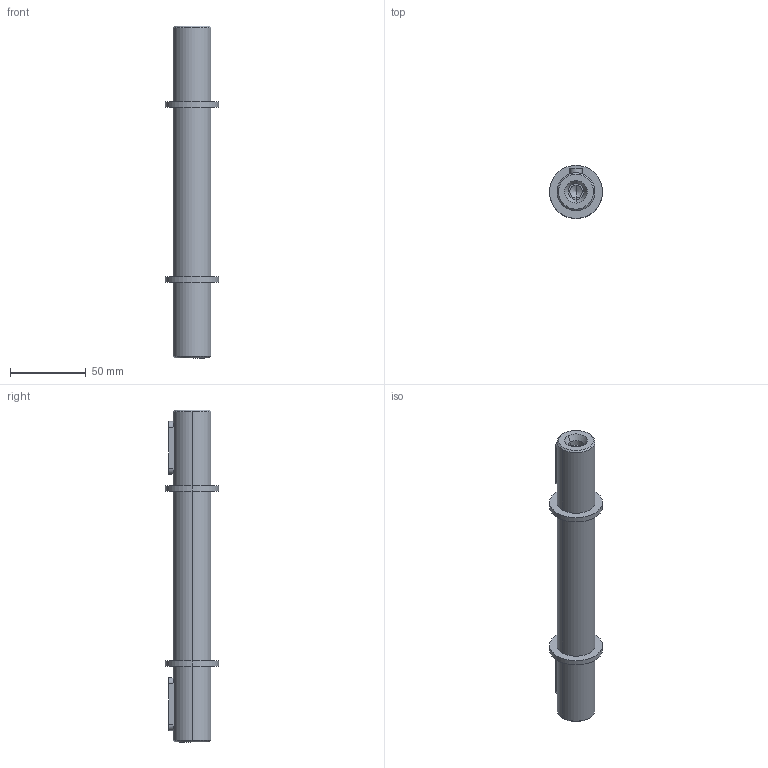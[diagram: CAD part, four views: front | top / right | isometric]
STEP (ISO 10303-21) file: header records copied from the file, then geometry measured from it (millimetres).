
FILE_DESCRIPTION(/* description */ (''),/* implementation_level */ '2;1');
FILE_NAME(/* name */ '6_ALBERO LENTO BISPORGENTE NMRV-P063',/* time_stamp */ '2025-10-09T14:54:52+02:00',/* author */ (''),/* organization */ (''),/* preprocessor_version */ 'ST-DEVELOPER v19.2',/* originating_system */ 'Rhino 8.23',/* authorisation */ '');
FILE_SCHEMA (('CONFIG_CONTROL_DESIGN'));
Length unit declared in the file: millimetre
Products named in the file (2): Document; AL 063-25(2-0)-p
Bounding box: 35 x 35 x 219 mm (x, y, z)
Volume: 108333.5 mm3; surface area: 22367.5 mm2
Topology: 1 solids, 1 shells, 48 faces, 103 edges, 63 vertices
Faces by surface type: cylinder 22, plane 14, bspline 12
Entity records: 1605 total; most frequent: CARTESIAN_POINT 494, ORIENTED_EDGE 198, DIRECTION 142, EDGE_CURVE 99, AXIS2_PLACEMENT_3D 89, VERTEX_POINT 63, EDGE_LOOP 58, B_SPLINE_CURVE_WITH_KNOTS 50
